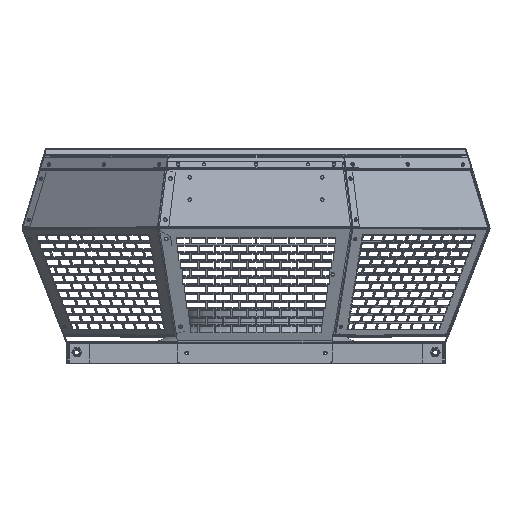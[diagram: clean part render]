
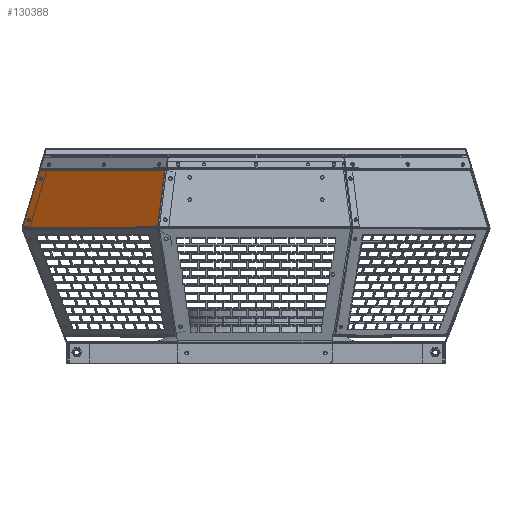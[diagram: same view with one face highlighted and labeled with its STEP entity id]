
A CAD part, top view. The second image highlights one B-rep face of the part: STEP entity #130388.
In plain terms, the highlighted planar face has unit normal (-0.677, 0.288, 0.677).
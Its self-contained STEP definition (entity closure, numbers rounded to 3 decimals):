
#2867 = CARTESIAN_POINT ( 'NONE',  ( -106.05, 188.313, 248.023 ) ) ;
#2873 = CARTESIAN_POINT ( 'NONE',  ( -250.488, 188.27, 103.735 ) ) ;
#3069 = CARTESIAN_POINT ( 'NONE',  ( -270.347, 122.222, 111.985 ) ) ;
#3142 = CARTESIAN_POINT ( 'NONE',  ( -263.565, 128.748, 115.986 ) ) ;
#3151 = CARTESIAN_POINT ( 'NONE',  ( -106.066, 188.187, 248.06 ) ) ;
#3155 = CARTESIAN_POINT ( 'NONE',  ( -113.981, 122.915, 267.913 ) ) ;
#3956 = CARTESIAN_POINT ( 'NONE',  ( -105.709, 188.187, 248.416 ) ) ;
#3982 = CARTESIAN_POINT ( 'NONE',  ( -114.118, 122.267, 268.051 ) ) ;
#4066 = CARTESIAN_POINT ( 'NONE',  ( -262.71, 132.769, 115.129 ) ) ;
#4210 = CARTESIAN_POINT ( 'NONE',  ( -113.818, 122.958, 268.057 ) ) ;
#5524 = VERTEX_POINT ( 'NONE', #43892 ) ;
#5526 = VERTEX_POINT ( 'NONE', #43861 ) ;
#5810 = EDGE_CURVE ( 'NONE', #30924, #31032, #8398, .T. ) ;
#5811 = EDGE_CURVE ( 'NONE', #31032, #31030, #8395, .T. ) ;
#5812 = EDGE_CURVE ( 'NONE', #31030, #30994, #8404, .T. ) ;
#5813 = EDGE_CURVE ( 'NONE', #30960, #31020, #8408, .T. ) ;
#5814 = EDGE_CURVE ( 'NONE', #31020, #30950, #8411, .T. ) ;
#5815 = EDGE_CURVE ( 'NONE', #31019, #31010, #8415, .T. ) ;
#5816 = EDGE_CURVE ( 'NONE', #31010, #31019, #8400, .T. ) ;
#5817 = EDGE_CURVE ( 'NONE', #5526, #5524, #8421, .T. ) ;
#5979 = EDGE_CURVE ( 'NONE', #30994, #30947, #8993, .T. ) ;
#6002 = EDGE_CURVE ( 'NONE', #30947, #30960, #9036, .T. ) ;
#6004 = EDGE_CURVE ( 'NONE', #30924, #30950, #9038, .T. ) ;
#6386 = EDGE_CURVE ( 'NONE', #5524, #5526, #79956, .T. ) ;
#8395 = LINE ( 'NONE', #121902, #8406 ) ;
#8398 = LINE ( 'NONE', #121728, #8402 ) ;
#8400 = CIRCLE ( 'NONE', #30615, 2.1 ) ;
#8402 = VECTOR ( 'NONE', #122287, 1000. ) ;
#8404 = LINE ( 'NONE', #122105, #8410 ) ;
#8406 = VECTOR ( 'NONE', #122076, 1000. ) ;
#8408 = LINE ( 'NONE', #122131, #8413 ) ;
#8410 = VECTOR ( 'NONE', #122128, 1000. ) ;
#8411 = LINE ( 'NONE', #122151, #8417 ) ;
#8413 = VECTOR ( 'NONE', #122148, 1000. ) ;
#8415 = CIRCLE ( 'NONE', #30613, 2.1 ) ;
#8417 = VECTOR ( 'NONE', #122192, 1000. ) ;
#8421 = CIRCLE ( 'NONE', #30617, 2.1 ) ;
#8993 = LINE ( 'NONE', #32110, #8996 ) ;
#8996 = VECTOR ( 'NONE', #32112, 1000. ) ;
#9036 = LINE ( 'NONE', #32201, #9041 ) ;
#9038 = LINE ( 'NONE', #32204, #9045 ) ;
#9041 = VECTOR ( 'NONE', #32202, 1000. ) ;
#9045 = VECTOR ( 'NONE', #32212, 1000. ) ;
#12114 = EDGE_LOOP ( 'NONE', ( #129009, #129012, #129014, #129016, #129018, #129020, #129022, #129025 ) ) ;
#12116 = EDGE_LOOP ( 'NONE', ( #129005, #129007 ) ) ;
#12132 = EDGE_LOOP ( 'NONE', ( #129001, #129003 ) ) ;
#30613 = AXIS2_PLACEMENT_3D ( 'NONE', #122255, #122284, #122290 ) ;
#30615 = AXIS2_PLACEMENT_3D ( 'NONE', #89649, #89553, #89530 ) ;
#30617 = AXIS2_PLACEMENT_3D ( 'NONE', #89516, #89500, #89469 ) ;
#30679 = AXIS2_PLACEMENT_3D ( 'NONE', #40654, #40657, #40658 ) ;
#30924 = VERTEX_POINT ( 'NONE', #4210 ) ;
#30947 = VERTEX_POINT ( 'NONE', #2873 ) ;
#30950 = VERTEX_POINT ( 'NONE', #3956 ) ;
#30960 = VERTEX_POINT ( 'NONE', #2867 ) ;
#30994 = VERTEX_POINT ( 'NONE', #3069 ) ;
#31010 = VERTEX_POINT ( 'NONE', #4066 ) ;
#31019 = VERTEX_POINT ( 'NONE', #3142 ) ;
#31020 = VERTEX_POINT ( 'NONE', #3151 ) ;
#31030 = VERTEX_POINT ( 'NONE', #3982 ) ;
#31032 = VERTEX_POINT ( 'NONE', #3155 ) ;
#32110 = CARTESIAN_POINT ( 'NONE',  ( -250.429, 188.468, 103.711 ) ) ;
#32112 = DIRECTION ( 'NONE',  ( 0.286, 0.951, -0.119 ) ) ;
#32201 = CARTESIAN_POINT ( 'NONE',  ( -98.192, 188.315, 255.872 ) ) ;
#32202 = DIRECTION ( 'NONE',  ( 0.707, 0., 0.707 ) ) ;
#32204 = CARTESIAN_POINT ( 'NONE',  ( -113.937, 122., 268.346 ) ) ;
#32212 = DIRECTION ( 'NONE',  ( 0.118, 0.951, -0.286 ) ) ;
#40654 = CARTESIAN_POINT ( 'NONE',  ( -248.825, 178.298, 109.638 ) ) ;
#40657 = DIRECTION ( 'NONE',  ( 0.677, -0.288, -0.677 ) ) ;
#40658 = DIRECTION ( 'NONE',  ( 0.203, 0.958, -0.204 ) ) ;
#43861 = CARTESIAN_POINT ( 'NONE',  ( -248.397, 180.309, 109.21 ) ) ;
#43892 = CARTESIAN_POINT ( 'NONE',  ( -249.252, 176.287, 110.067 ) ) ;
#47741 = FACE_OUTER_BOUND ( 'NONE', #12114, .T. ) ;
#47746 = FACE_BOUND ( 'NONE', #12132, .T. ) ;
#47749 = FACE_BOUND ( 'NONE', #12116, .T. ) ;
#77868 = DIRECTION ( 'NONE',  ( 0.677, -0.288, -0.677 ) ) ;
#77877 = CARTESIAN_POINT ( 'NONE',  ( -112.393, 121.481, 270.108 ) ) ;
#77881 = PLANE ( 'NONE',  #82090 ) ;
#77884 = DIRECTION ( 'NONE',  ( 0.203, 0.958, -0.204 ) ) ;
#79956 = CIRCLE ( 'NONE', #30679, 2.1 ) ;
#82090 = AXIS2_PLACEMENT_3D ( 'NONE', #77877, #77868, #77884 ) ;
#89469 = DIRECTION ( 'NONE',  ( 0.203, 0.958, -0.204 ) ) ;
#89500 = DIRECTION ( 'NONE',  ( 0.677, -0.288, -0.677 ) ) ;
#89516 = CARTESIAN_POINT ( 'NONE',  ( -248.825, 178.298, 109.638 ) ) ;
#89530 = DIRECTION ( 'NONE',  ( 0.203, 0.958, -0.204 ) ) ;
#89553 = DIRECTION ( 'NONE',  ( 0.677, -0.288, -0.677 ) ) ;
#89649 = CARTESIAN_POINT ( 'NONE',  ( -263.138, 130.758, 115.557 ) ) ;
#121728 = CARTESIAN_POINT ( 'NONE',  ( -104.419, 125.469, 276.379 ) ) ;
#121902 = CARTESIAN_POINT ( 'NONE',  ( -114.388, 120.999, 268.321 ) ) ;
#122076 = DIRECTION ( 'NONE',  ( -0.203, -0.958, 0.204 ) ) ;
#122105 = CARTESIAN_POINT ( 'NONE',  ( -112.226, 122.268, 269.941 ) ) ;
#122128 = DIRECTION ( 'NONE',  ( -0.707, 0., -0.707 ) ) ;
#122131 = CARTESIAN_POINT ( 'NONE',  ( -114.396, 121.168, 268.241 ) ) ;
#122148 = DIRECTION ( 'NONE',  ( -0.118, -0.951, 0.286 ) ) ;
#122151 = CARTESIAN_POINT ( 'NONE',  ( -106.066, 188.187, 248.06 ) ) ;
#122192 = DIRECTION ( 'NONE',  ( 0.707, 0., 0.707 ) ) ;
#122255 = CARTESIAN_POINT ( 'NONE',  ( -263.138, 130.758, 115.557 ) ) ;
#122284 = DIRECTION ( 'NONE',  ( 0.677, -0.288, -0.677 ) ) ;
#122287 = DIRECTION ( 'NONE',  ( -0.734, -0.196, -0.65 ) ) ;
#122290 = DIRECTION ( 'NONE',  ( 0.203, 0.958, -0.204 ) ) ;
#129001 = ORIENTED_EDGE ( 'NONE', *, *, #5817, .T. ) ;
#129003 = ORIENTED_EDGE ( 'NONE', *, *, #6386, .T. ) ;
#129005 = ORIENTED_EDGE ( 'NONE', *, *, #5816, .T. ) ;
#129007 = ORIENTED_EDGE ( 'NONE', *, *, #5815, .T. ) ;
#129009 = ORIENTED_EDGE ( 'NONE', *, *, #6004, .T. ) ;
#129012 = ORIENTED_EDGE ( 'NONE', *, *, #5814, .F. ) ;
#129014 = ORIENTED_EDGE ( 'NONE', *, *, #5813, .F. ) ;
#129016 = ORIENTED_EDGE ( 'NONE', *, *, #6002, .F. ) ;
#129018 = ORIENTED_EDGE ( 'NONE', *, *, #5979, .F. ) ;
#129020 = ORIENTED_EDGE ( 'NONE', *, *, #5812, .F. ) ;
#129022 = ORIENTED_EDGE ( 'NONE', *, *, #5811, .F. ) ;
#129025 = ORIENTED_EDGE ( 'NONE', *, *, #5810, .F. ) ;
#130388 = ADVANCED_FACE ( 'NONE', ( #47746, #47749, #47741 ), #77881, .F. ) ;
